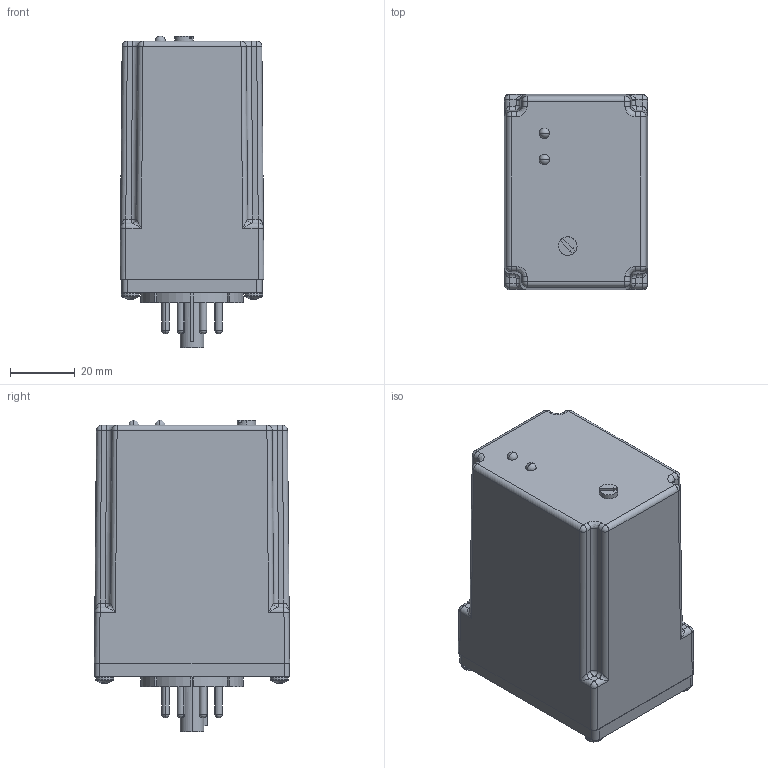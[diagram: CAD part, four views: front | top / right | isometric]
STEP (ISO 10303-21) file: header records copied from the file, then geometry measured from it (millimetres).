
FILE_DESCRIPTION (( 'STEP AP203' ), '1' );
FILE_NAME ('SFP Single LCP Single Dual-2 LED.step', '2014-09-05T02:52:02', ( 'JLohr' ), ( '' ), 'SwSTEP 2.0', 'SolidWorks 2007', '' );
FILE_SCHEMA (( 'CONFIG_CONTROL_DESIGN' ));
Length unit declared in the file: inch
Products named in the file (1): SFP Single LCP Single Dual-2 LED
Bounding box: 44.45 x 60.33 x 96.33 mm (x, y, z)
Volume: 200524.9 mm3; surface area: 28876.7 mm2
Topology: 17 solids, 17 shells, 698 faces, 1847 edges, 1176 vertices
Faces by surface type: cylinder 282, plane 230, bspline 114, cone 40, sphere 32
Entity records: 32074 total; most frequent: CARTESIAN_POINT 16580, ORIENTED_EDGE 3582, DIRECTION 2653, EDGE_CURVE 1791, VERTEX_POINT 1156, AXIS2_PLACEMENT_3D 929, VECTOR 795, LINE 795
